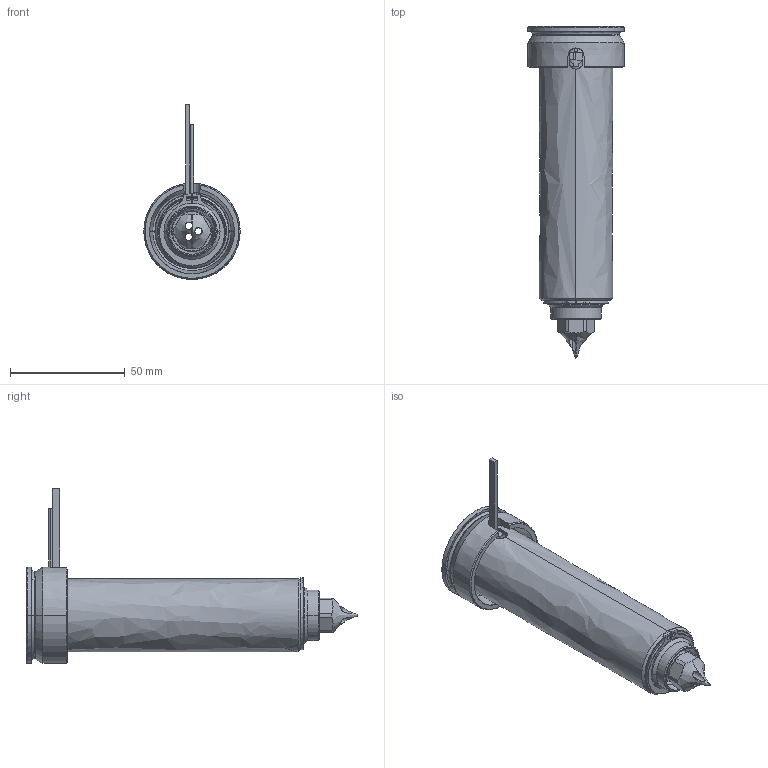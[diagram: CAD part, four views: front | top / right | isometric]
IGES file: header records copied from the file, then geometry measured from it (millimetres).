
Start section: SolidWorks IGES file using analytic representation for surfaces
Global section: file name: C:\Users\luca.EMPAD\Desktop\TEM\UGDL3614-M-A-1 [Øf=0.6 ØC=09].IGS; native system: SolidWorks 2012; preprocessor: SolidWorks 2012; author: luca; date: 120330.155635; units: millimetre
Bounding box: 42 x 144.8 x 76.3 mm (x, y, z)
Surface area: 46511.1 mm2 (no closed solid volume)
Topology: 0 solids, 0 shells, 127 faces, 2218 edges, 2218 vertices
Faces by surface type: revolution 79, bspline 48
